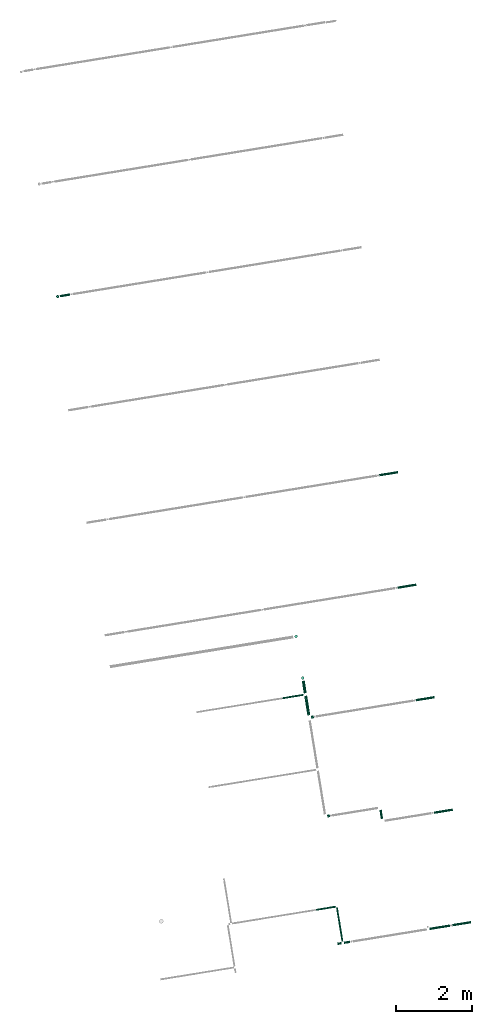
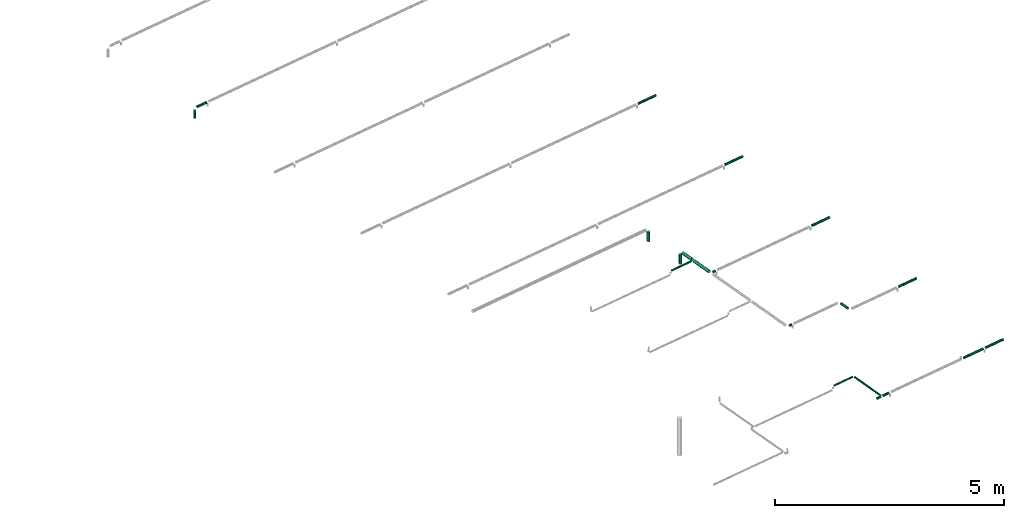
# One storey, part 2 of 10: 20 flow segments.
"""IFC2X3 building model written with IfcOpenShell, lengths in millimetres."""

import ifcopenshell
import ifcopenshell.guid

model = None  # the IFC model being written
_history = None  # IfcOwnerHistory: only IFC2X3 demands one
_inside = {}  # id of a spatial element -> (the spatial element, [elements in it])
_under = {}  # id of a project, library or spatial element -> (it, [spatial elements below it])
_declared = {}  # id of a project -> (the project, [libraries it declares])
_typed = {}  # id of a type object -> (the type object, [elements of that type])
_made_of = {}  # id of a material, layer set ... -> (it, [elements and type objects made of it])


def new_model(schema):
    """Start an empty IFC model of exactly this schema.

    Asked for "IFC4X3", IfcOpenShell would pick the latest addendum, in which some entities
    have other attributes; the version numbers below select the first issue.
    IFC2X3 requires an IfcOwnerHistory on every rooted entity: one is made here for all.
    """
    global model, _history
    if schema == "IFC4X3":
        model = ifcopenshell.file(schema_version=(4, 3, 0, 0))
    else:
        model = ifcopenshell.file(schema=schema)
    _inside.clear()
    _under.clear()
    _declared.clear()
    _typed.clear()
    _made_of.clear()
    _history = None
    if model.schema == "IFC2X3":
        org = make("IfcOrganization", Name="unknown")
        user = make(
            "IfcPersonAndOrganization",
            ThePerson=make("IfcPerson", FamilyName="unknown"),
            TheOrganization=org,
        )
        app = make(
            "IfcApplication",
            ApplicationDeveloper=org,
            Version="unknown",
            ApplicationFullName="unknown",
            ApplicationIdentifier="unknown",
        )
        _history = make(
            "IfcOwnerHistory",
            OwningUser=user,
            OwningApplication=app,
            ChangeAction="ADDED",
            CreationDate=0,
        )
    return model


def make(cls, **values):
    """One entity of the class cls with the attributes given. An attribute that is None is left unset."""
    return model.create_entity(
        cls, **{name: value for name, value in values.items() if value is not None}
    )


def entity(cls, *values):
    """Any entity or typed value of the class cls, its attributes in the order of the schema. None: left unset."""
    e = model.create_entity(cls)
    for i, value in enumerate(values):
        if value is not None:
            e[i] = value
    return e


def rooted(cls, **values):
    """An entity with a GlobalId (a new one), such as an element, a storey or a relation."""
    return make(cls, GlobalId=ifcopenshell.guid.new(), OwnerHistory=_history, **values)


def si_unit(unit_type, name, prefix=None):
    """IfcSIUnit, for example si_unit("LENGTHUNIT", "METRE", prefix="MILLI")."""
    return make("IfcSIUnit", UnitType=unit_type, Prefix=prefix, Name=name)


def converted_unit(unit_type, name, factor, base, dimensions=None, offset=None):
    """IfcConversionBasedUnit, such as the inch: factor (a typed value) times the base unit."""
    return make(
        "IfcConversionBasedUnit"
        if offset is None
        else "IfcConversionBasedUnitWithOffset",
        ConversionOffset=offset,
        Dimensions=None
        if dimensions is None
        else entity("IfcDimensionalExponents", *dimensions),
        UnitType=unit_type,
        Name=name,
        ConversionFactor=make(
            "IfcMeasureWithUnit", ValueComponent=factor, UnitComponent=base
        ),
    )


def derived_unit(unit_type, elements):
    """IfcDerivedUnit: a product of units, each with its exponent."""
    return make(
        "IfcDerivedUnit",
        Elements=[
            make("IfcDerivedUnitElement", Unit=unit, Exponent=power)
            for unit, power in elements
        ],
        UnitType=unit_type,
    )


def assignment(units):
    """IfcUnitAssignment: the units of a project."""
    return None if units is None else make("IfcUnitAssignment", Units=units)


def point(xyz):
    """IfcCartesianPoint."""
    return None if xyz is None else make("IfcCartesianPoint", Coordinates=xyz)


def direction(xyz):
    """IfcDirection."""
    return None if xyz is None else make("IfcDirection", DirectionRatios=xyz)


def frame(location, z_axis=None, x_axis=None):
    """IfcAxis2Placement3D, a coordinate frame: its origin and axes. An axis left out is left unset."""
    return make(
        "IfcAxis2Placement3D",
        Location=point(location),
        Axis=direction(z_axis),
        RefDirection=direction(x_axis),
    )


def frame_2d(location, x_axis=None):
    """IfcAxis2Placement2D, a coordinate frame in the plane: its origin and x axis."""
    return make(
        "IfcAxis2Placement2D", Location=point(location), RefDirection=direction(x_axis)
    )


def origin():
    """The frame at (0, 0, 0) with its axes left unset."""
    return frame((0.0, 0.0, 0.0))


def origin_with_axes():
    """The frame at (0, 0, 0) with the z axis (0, 0, 1) and the x axis (1, 0, 0) written out."""
    return frame((0.0, 0.0, 0.0), z_axis=(0.0, 0.0, 1.0), x_axis=(1.0, 0.0, 0.0))


def origin_2d_with_axis():
    """The frame at (0, 0) in the plane with the x axis (1, 0) written out."""
    return frame_2d((0.0, 0.0), x_axis=(1.0, 0.0))


def place(relative_to, where):
    """IfcLocalPlacement: puts the frame where relative to a parent placement (None: the world)."""
    return make(
        "IfcLocalPlacement", PlacementRelTo=relative_to, RelativePlacement=where
    )


def context(
    kind, dimensions, precision=None, world=None, true_north=None, identifier=None
):
    """IfcGeometricRepresentationContext, for example the 3D "Model" context."""
    return make(
        "IfcGeometricRepresentationContext",
        ContextIdentifier=identifier,
        ContextType=kind,
        CoordinateSpaceDimension=dimensions,
        Precision=precision,
        WorldCoordinateSystem=world,
        TrueNorth=true_north,
    )


def subcontext(parent, identifier, kind, view, scale=None):
    """IfcGeometricRepresentationSubContext, for example "Body" below "Model"."""
    return make(
        "IfcGeometricRepresentationSubContext",
        ContextIdentifier=identifier,
        ContextType=kind,
        ParentContext=parent,
        TargetScale=scale,
        TargetView=view,
    )


def project(units=None, contexts=None):
    """IfcProject with its units and contexts."""
    return rooted(
        "IfcProject",
        Name="project",
        RepresentationContexts=contexts,
        UnitsInContext=assignment(units),
    )


def spatial(cls, under=None, at=None, **own):
    """A site, building, storey or space (cls), placed at a placement, below another one or the project."""
    s = rooted(cls, ObjectPlacement=at, **own)
    if under is not None:
        _under.setdefault(under.id(), (under, []))[1].append(s)
    return s


def profile(cls, at=None, kind="AREA", **sizes):
    """A parametric profile (cls). Its sizes go by their IFC names, for example OverallWidth=200.0."""
    return make(cls, ProfileType=kind, Position=at, **sizes)


def circle(**sizes):
    """IfcCircleProfileDef."""
    return profile("IfcCircleProfileDef", **sizes)


def extrude(swept, where, along, depth):
    """IfcExtrudedAreaSolid: the profile swept, set in the frame where, extruded along a direction by depth."""
    return make(
        "IfcExtrudedAreaSolid",
        SweptArea=swept,
        Position=where,
        ExtrudedDirection=direction(along),
        Depth=depth,
    )


def shape(context_of_items, identifier, shape_type, items):
    """IfcShapeRepresentation: the items that make up one representation, for example the "Body"."""
    return make(
        "IfcShapeRepresentation",
        ContextOfItems=context_of_items,
        RepresentationIdentifier=identifier,
        RepresentationType=shape_type,
        Items=items,
    )


def made_of(thing, what):
    """Note that an element or type object is made of a material, layer set ...; save() writes the relation."""
    if what is not None:
        _made_of.setdefault(what.id(), (what, []))[1].append(thing)
    return thing


def type_object(cls, material=None, **own):
    """A type object (cls), such as IfcWallType, which elements share."""
    return made_of(rooted(cls, **own), material)


def element(
    cls,
    number,
    at=None,
    inside=None,
    cuts=None,
    type_object=None,
    material=None,
    context=None,
    identifier="Body",
    shape_type=None,
    held_by="IfcProductDefinitionShape",
    body=None,
    shapes=None,
    **own,
):
    """One element of the class cls, such as IfcWall. Its Tag is "e" and its number.

    at: its placement. inside: the storey or other place that contains it. cuts: it is an
    opening in that element (IfcRelVoidsElement). A single representation is given by context,
    identifier, shape_type and body (its items); several are given by shapes. held_by: the class
    of the entity that holds the representations. save() writes the other relations.
    """
    e = rooted(cls, Tag="e%d" % number, ObjectPlacement=at, **own)
    if body is not None:
        shapes = [shape(context, identifier, shape_type, body)]
    if shapes is not None:
        e.Representation = make(held_by, Representations=shapes)
    if inside is not None:
        _inside.setdefault(inside.id(), (inside, []))[1].append(e)
    if cuts is not None:
        rooted(
            "IfcRelVoidsElement", RelatingBuildingElement=cuts, RelatedOpeningElement=e
        )
    if type_object is not None:
        _typed.setdefault(type_object.id(), (type_object, []))[1].append(e)
    return made_of(e, material)


def aggregate(whole, parts):
    """IfcRelAggregates: a whole, such as a stair, and the parts it consists of."""
    return rooted("IfcRelAggregates", RelatingObject=whole, RelatedObjects=parts)


def save(model, path):
    """Write the relations noted so far, then the file.

    IfcRelAggregates (storeys below a building ...), IfcRelContainedInSpatialStructure (elements
    in a storey), IfcRelDefinesByType, IfcRelAssociatesMaterial and IfcRelDeclares: one each for
    every whole, place, type object, material and project.
    """
    for whole, parts in _under.values():
        aggregate(whole, parts)
    for where, things in _inside.values():
        rooted(
            "IfcRelContainedInSpatialStructure",
            RelatedElements=things,
            RelatingStructure=where,
        )
    for kind, things in _typed.values():
        rooted("IfcRelDefinesByType", RelatedObjects=things, RelatingType=kind)
    for what, things in _made_of.values():
        rooted("IfcRelAssociatesMaterial", RelatedObjects=things, RelatingMaterial=what)
    for by, libraries in _declared.values():
        rooted("IfcRelDeclares", RelatingContext=by, RelatedDefinitions=libraries)
    model.write(path)


model = new_model("IFC2X3")

# Units and contexts
plan_context = context("Plan", 3, precision=1e-05, world=origin_with_axes())
model_context = context("Model", 3, precision=0.01, world=origin(), true_north=direction((6.12323399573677e-17, 1.0)))
body_context = subcontext(model_context, "Body", "Model", "MODEL_VIEW")
ifc_project = project(units=[converted_unit("PLANEANGLEUNIT", "DEGREE", entity("IfcPositiveLengthMeasure", 0.0174532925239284), si_unit("PLANEANGLEUNIT", "RADIAN"), dimensions=[0, 0, 0, 0, 0, 0, 0]), si_unit("AREAUNIT", "SQUARE_METRE"), si_unit("LENGTHUNIT", "METRE", prefix="MILLI"), si_unit("MASSUNIT", "GRAM", prefix="KILO"), si_unit("POWERUNIT", "WATT"), si_unit("PRESSUREUNIT", "PASCAL", prefix="KILO"), si_unit("FORCEUNIT", "NEWTON", prefix="KILO"), si_unit("ELECTRICVOLTAGEUNIT", "VOLT"), si_unit("ELECTRICCURRENTUNIT", "AMPERE"), si_unit("THERMODYNAMICTEMPERATUREUNIT", "DEGREE_CELSIUS"), si_unit("TIMEUNIT", "SECOND"), si_unit("VOLUMEUNIT", "CUBIC_METRE"), derived_unit("LINEARVELOCITYUNIT", [(si_unit("LENGTHUNIT", "METRE"), 1), (si_unit("TIMEUNIT", "SECOND"), -1)]), derived_unit("VOLUMETRICFLOWRATEUNIT", [(si_unit("VOLUMEUNIT", "CUBIC_METRE"), 1), (si_unit("TIMEUNIT", "SECOND"), -1)]), derived_unit("THERMALTRANSMITTANCEUNIT", [(si_unit("POWERUNIT", "WATT"), 1), (si_unit("THERMODYNAMICTEMPERATUREUNIT", "KELVIN"), -1), (si_unit("AREAUNIT", "SQUARE_METRE"), -1)]), derived_unit("SOUNDPRESSUREUNIT", [(si_unit("PRESSUREUNIT", "PASCAL"), 1)])], contexts=[model_context, plan_context])

# Site, building, storey
site_placement = place(None, frame((-0.00071070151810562, 0.00438415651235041, 0.0), z_axis=(0.0, 0.0, 1.0), x_axis=(-0.160236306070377, 0.987078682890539, 0.0)))
site = spatial("IfcSite", under=ifc_project, at=site_placement, Name="Default", CompositionType="ELEMENT")
building_placement = place(site_placement, origin_with_axes())
building = spatial("IfcBuilding", under=site, at=building_placement, CompositionType="ELEMENT")
storey_placement = place(building_placement, frame((0.0, 0.0, 55630.0), z_axis=(0.0, 0.0, 1.0), x_axis=(1.0, 0.0, 0.0)))
storey = spatial("IfcBuildingStorey", under=building, at=storey_placement, Name="Nivå E", CompositionType="ELEMENT", Elevation=55630.0)

# Flow segments
pipe_segment_type = type_object("IfcPipeSegmentType", Name="Pipe Types:Stålrør normaltykke", PredefinedType="NOTDEFINED")
flow_segment_1_placement = place(storey_placement, origin_with_axes())
element("IfcFlowSegment", 1, at=flow_segment_1_placement, inside=storey, type_object=pipe_segment_type, Name="Pipe Types:Stålrør normaltykke", ObjectType="Pipe Types:Stålrør normaltykke", context=body_context, shape_type="SweptSolid", body=[
    extrude(circle(Radius=30.1499996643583, at=origin_2d_with_axis()), frame((763377.619644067, -509209.960230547, 2600.0), z_axis=(0.0, 1.0, 0.0), x_axis=(1.0, 0.0, 0.0)), (0.0, 0.0, 1.0), 497.682988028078),
])
flow_segment_2_placement = place(storey_placement, origin_with_axes())
element("IfcFlowSegment", 2, at=flow_segment_2_placement, inside=storey, type_object=pipe_segment_type, Name="Pipe Types:Stålrør normaltykke", ObjectType="Pipe Types:Stålrør normaltykke", context=body_context, shape_type="SweptSolid", body=[
    extrude(circle(Radius=30.1499996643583, at=origin_2d_with_axis()), frame((766377.619644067, -509209.960230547, 2600.0), z_axis=(0.0, 1.0, 0.0), x_axis=(1.0, 0.0, 0.0)), (0.0, 0.0, 1.0), 497.682988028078),
])
flow_segment_3_placement = place(storey_placement, origin_with_axes())
element("IfcFlowSegment", 3, at=flow_segment_3_placement, inside=storey, type_object=pipe_segment_type, Name="Pipe Types:Stålrør normaltykke", ObjectType="Pipe Types:Stålrør normaltykke", context=body_context, shape_type="SweptSolid", body=[
    extrude(circle(Radius=30.1499996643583, at=origin_2d_with_axis()), frame((769377.619644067, -509209.960230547, 2600.0), z_axis=(0.0, 1.0, 0.0), x_axis=(1.0, 0.0, 0.0)), (0.0, 0.0, 1.0), 497.682988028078),
])
flow_segment_4_placement = place(storey_placement, origin_with_axes())
element("IfcFlowSegment", 4, at=flow_segment_4_placement, inside=storey, type_object=pipe_segment_type, Name="Pipe Types:Stålrør normaltykke", ObjectType="Pipe Types:Stålrør normaltykke", context=body_context, shape_type="SweptSolid", body=[
    extrude(circle(Radius=30.1499996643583, at=origin_2d_with_axis()), frame((772377.619644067, -509209.960230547, 2600.0), z_axis=(0.0, 1.0, 0.0), x_axis=(1.0, 0.0, 0.0)), (0.0, 0.0, 1.0), 497.682988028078),
])
flow_segment_5_placement = place(storey_placement, origin_with_axes())
element("IfcFlowSegment", 5, at=flow_segment_5_placement, inside=storey, type_object=pipe_segment_type, Name="Pipe Types:Stålrør normaltykke", ObjectType="Pipe Types:Stålrør normaltykke", context=body_context, shape_type="SweptSolid", body=[
    extrude(circle(Radius=30.1499996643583, at=origin_2d_with_axis()), frame((775377.619644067, -509209.960230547, 2600.0), z_axis=(0.0, 1.0, 0.0), x_axis=(1.0, 0.0, 0.0)), (0.0, 0.0, 1.0), 497.682988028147),
])
flow_segment_6_placement = place(storey_placement, origin_with_axes())
element("IfcFlowSegment", 6, at=flow_segment_6_placement, inside=storey, type_object=pipe_segment_type, Name="Pipe Types:Stålrør normaltykke", ObjectType="Pipe Types:Stålrør normaltykke", context=body_context, shape_type="SweptSolid", body=[
    extrude(circle(Radius=30.1499996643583, at=origin_2d_with_axis()), frame((763377.619644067, -505753.871414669, 2600.0), z_axis=(0.0, 1.0, 0.0), x_axis=(1.0, 0.0, 0.0)), (0.0, 0.0, 1.0), 108.794172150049),
])
flow_segment_7_placement = place(storey_placement, origin_with_axes())
element("IfcFlowSegment", 7, at=flow_segment_7_placement, inside=storey, type_object=pipe_segment_type, Name="Pipe Types:Stålrør normaltykke", ObjectType="Pipe Types:Stålrør normaltykke", context=body_context, shape_type="SweptSolid", body=[
    extrude(circle(Radius=30.1499996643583, at=origin_2d_with_axis()), frame((766737.619644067, -505984.677242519, 2600.0), z_axis=(0.0, 1.0, 0.0), x_axis=(1.0, 0.0, 0.0)), (0.0, 0.0, 1.0), 55.9058763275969),
])
flow_segment_8_placement = place(storey_placement, origin_with_axes())
element("IfcFlowSegment", 8, at=flow_segment_8_placement, inside=storey, type_object=pipe_segment_type, Name="Pipe Types:Stålrør normaltykke", ObjectType="Pipe Types:Stålrør normaltykke", context=body_context, shape_type="SweptSolid", body=[
    extrude(circle(Radius=38.0499992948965, at=origin_2d_with_axis()), frame((770024.996595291, -505868.371366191, 2600.0), z_axis=(1.0, 0.0, 0.0), x_axis=(0.0, -1.0, 0.0)), (0.0, 0.0, 1.0), 331.53546260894),
])
flow_segment_9_placement = place(storey_placement, origin_with_axes())
element("IfcFlowSegment", 9, at=flow_segment_9_placement, inside=storey, type_object=pipe_segment_type, Name="Pipe Types:Stålrør normaltykke", ObjectType="Pipe Types:Stålrør normaltykke", context=body_context, shape_type="SweptSolid", body=[
    extrude(circle(Radius=38.0499992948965, at=origin_2d_with_axis()), frame((770432.7320579, -505868.371366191, 2276.19999999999)), (0.0, 0.0, 1.0), 247.599999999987),
])
flow_segment_10_placement = place(storey_placement, origin_with_axes())
element("IfcFlowSegment", 10, at=flow_segment_10_placement, inside=storey, type_object=pipe_segment_type, Name="Pipe Types:Stålrør normaltykke", ObjectType="Pipe Types:Stålrør normaltykke", context=body_context, shape_type="SweptSolid", body=[
    extrude(circle(Radius=38.0499992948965, at=origin_2d_with_axis()), frame((771539.198219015, -505868.371366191, 2276.19999999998), z_axis=(0.0, 0.0, 1.0), x_axis=(-1.0, 0.0, 0.0)), (0.0, 0.0, 1.0), 247.600000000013),
])
flow_segment_11_placement = place(storey_placement, origin_with_axes())
element("IfcFlowSegment", 11, at=flow_segment_11_placement, inside=storey, type_object=pipe_segment_type, Name="Pipe Types:Stålrør normaltykke", ObjectType="Pipe Types:Stålrør normaltykke", context=body_context, shape_type="SweptSolid", body=[
    extrude(circle(Radius=30.1499996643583, at=origin_2d_with_axis()), frame((769377.619644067, -505984.677242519, 2600.0), z_axis=(0.0, 1.0, 0.0), x_axis=(-1.0, 0.0, 0.0)), (0.0, 0.0, 1.0), 59.1558763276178),
])
flow_segment_12_placement = place(storey_placement, origin_with_axes())
element("IfcFlowSegment", 12, at=flow_segment_12_placement, inside=storey, type_object=pipe_segment_type, Name="Pipe Types:Stålrør normaltykke", ObjectType="Pipe Types:Stålrør normaltykke", context=body_context, shape_type="SweptSolid", body=[
    extrude(circle(Radius=16.8500004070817, at=origin_2d_with_axis()), frame((769991.196595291, -505811.221366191, 2600.0), z_axis=(0.0, 1.0, 0.0), x_axis=(1.0, 0.0, 0.0)), (0.0, 0.0, 1.0), 550.684352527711),
])
flow_segment_13_placement = place(storey_placement, origin_with_axes())
element("IfcFlowSegment", 13, at=flow_segment_13_placement, inside=storey, type_object=pipe_segment_type, Name="Pipe Types:Stålrør normaltykke", ObjectType="Pipe Types:Stålrør normaltykke", context=body_context, shape_type="SweptSolid", body=[
    extrude(circle(Radius=38.0499992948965, at=origin_2d_with_axis()), frame((769438.019644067, -505868.371366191, 2600.0), z_axis=(1.0, 0.0, 0.0), x_axis=(0.0, -1.0, 0.0)), (0.0, 0.0, 1.0), 519.376951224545),
])
flow_segment_14_placement = place(storey_placement, origin_with_axes())
element("IfcFlowSegment", 14, at=flow_segment_14_placement, inside=storey, type_object=pipe_segment_type, Name="Pipe Types:Stålrør normaltykke", ObjectType="Pipe Types:Stålrør normaltykke", context=body_context, shape_type="SweptSolid", body=[
    extrude(circle(Radius=16.8500004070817, at=origin_2d_with_axis()), frame((764350.752549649, -505753.871414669, 2600.0), z_axis=(0.0, 1.0, 0.0), x_axis=(-1.0, 0.0, 0.0)), (0.0, 0.0, 1.0), 512.399999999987),
])
flow_segment_15_placement = place(storey_placement, origin_with_axes())
element("IfcFlowSegment", 15, at=flow_segment_15_placement, inside=storey, type_object=pipe_segment_type, Name="Pipe Types:Stålrør normaltykke", ObjectType="Pipe Types:Stålrør normaltykke", context=body_context, shape_type="SweptSolid", body=[
    extrude(circle(Radius=16.8500004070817, at=origin_2d_with_axis()), frame((763422.919644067, -505787.671414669, 2600.0), z_axis=(1.0, 0.0, 0.0), x_axis=(0.0, -1.0, 0.0)), (0.0, 0.0, 1.0), 894.03290558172),
])
flow_segment_16_placement = place(storey_placement, origin_with_axes())
element("IfcFlowSegment", 16, at=flow_segment_16_placement, inside=storey, type_object=pipe_segment_type, Name="Pipe Types:Stålrør normaltykke", ObjectType="Pipe Types:Stålrør normaltykke", context=body_context, shape_type="SweptSolid", body=[
    extrude(circle(Radius=30.1499996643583, at=origin_2d_with_axis()), frame((763377.619644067, -505984.677242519, 2600.0), z_axis=(0.0, 1.0, 0.0), x_axis=(1.0, 0.0, 0.0)), (0.0, 0.0, 1.0), 163.205827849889),
])
flow_segment_17_placement = place(storey_placement, origin_with_axes())
element("IfcFlowSegment", 17, at=flow_segment_17_placement, inside=storey, type_object=pipe_segment_type, Name="Pipe Types:Stålrør normaltykke", ObjectType="Pipe Types:Stålrør normaltykke", context=body_context, shape_type="SweptSolid", body=[
    extrude(circle(Radius=30.1499996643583, at=origin_2d_with_axis()), frame((763377.619644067, -508644.677242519, 2600.0), z_axis=(0.0, 1.0, 0.0), x_axis=(1.0, 0.0, 0.0)), (0.0, 0.0, 1.0), 545.63283957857),
])
flow_segment_18_placement = place(storey_placement, origin_with_axes())
element("IfcFlowSegment", 18, at=flow_segment_18_placement, inside=storey, type_object=pipe_segment_type, Name="Pipe Types:Stålrør normaltykke", ObjectType="Pipe Types:Stålrør normaltykke", context=body_context, shape_type="SweptSolid", body=[
    extrude(circle(Radius=30.1499996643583, at=origin_2d_with_axis()), frame((766438.019644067, -507332.277242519, 2600.0), z_axis=(1.0, 0.0, 0.0), x_axis=(0.0, -1.0, 0.0)), (0.0, 0.0, 1.0), 239.200000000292),
])
flow_segment_19_placement = place(storey_placement, origin_with_axes())
element("IfcFlowSegment", 19, at=flow_segment_19_placement, inside=storey, type_object=pipe_segment_type, Name="Pipe Types:Stålrør normaltykke", ObjectType="Pipe Types:Stålrør normaltykke", context=body_context, shape_type="SweptSolid", body=[
    extrude(circle(Radius=30.1499996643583, at=origin_2d_with_axis()), frame((781377.619644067, -501434.677242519, 2600.0), z_axis=(0.0, 1.0, 0.0), x_axis=(-1.0, 0.0, 0.0)), (0.0, 0.0, 1.0), 268.282810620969),
])
flow_segment_20_placement = place(storey_placement, origin_with_axes())
element("IfcFlowSegment", 20, at=flow_segment_20_placement, inside=storey, type_object=pipe_segment_type, Name="Pipe Types:Stålrør normaltykke", ObjectType="Pipe Types:Stålrør normaltykke", context=body_context, shape_type="SweptSolid", body=[
    extrude(circle(Radius=30.1499996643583, at=origin_2d_with_axis()), frame((781377.619644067, -501105.994431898, 2330.40000000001), z_axis=(0.0, 0.0, 1.0), x_axis=(-1.0, 0.0, 0.0)), (0.0, 0.0, 1.0), 209.199999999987),
])

save(model, "model.ifc")
